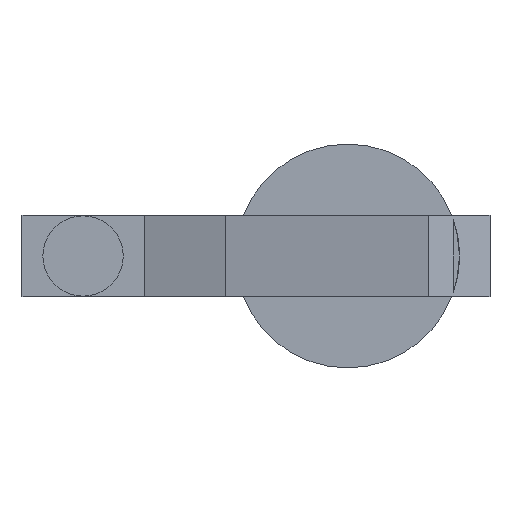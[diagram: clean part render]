
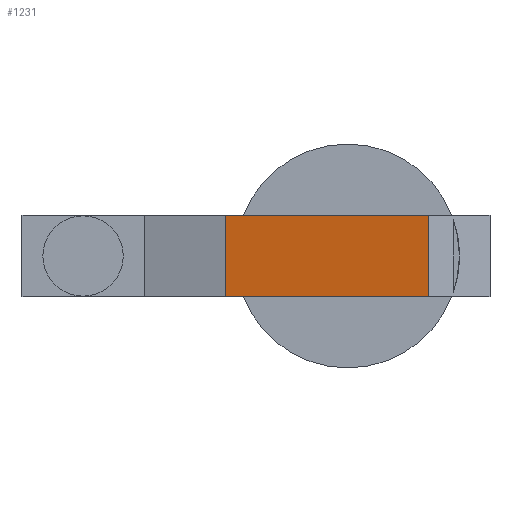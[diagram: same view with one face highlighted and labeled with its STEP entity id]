
A CAD part, front view. The second image highlights one B-rep face of the part: STEP entity #1231.
In plain terms, the highlighted planar face has unit normal (0.874, -0.486, 0) as drawn and (0.874, 0, 0.486) by its records, which use the part's own axes.
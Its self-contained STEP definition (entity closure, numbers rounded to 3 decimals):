
#66 = PLANE('',#67);
#67 = AXIS2_PLACEMENT_3D('',#68,#69,#70);
#68 = CARTESIAN_POINT('',(84.,0.,4.));
#69 = DIRECTION('',(-0.555,0.,-0.832));
#70 = DIRECTION('',(0.832,0.,-0.555));
#163 = VERTEX_POINT('',#164);
#164 = CARTESIAN_POINT('',(84.,4.,4.));
#180 = PLANE('',#181);
#181 = AXIS2_PLACEMENT_3D('',#182,#183,#184);
#182 = CARTESIAN_POINT('',(65.174,4.,26.373));
#183 = DIRECTION('',(0.,1.,-0.));
#184 = DIRECTION('',(-1.,0.,0.));
#221 = VERTEX_POINT('',#222);
#222 = CARTESIAN_POINT('',(84.,-4.,4.));
#236 = PLANE('',#237);
#237 = AXIS2_PLACEMENT_3D('',#238,#239,#240);
#238 = CARTESIAN_POINT('',(65.174,-4.,26.373));
#239 = DIRECTION('',(0.,1.,-0.));
#240 = DIRECTION('',(-1.,0.,0.));
#248 = EDGE_CURVE('',#221,#163,#249,.T.);
#249 = SURFACE_CURVE('',#250,(#254,#261),.PCURVE_S1.);
#250 = LINE('',#251,#252);
#251 = CARTESIAN_POINT('',(84.,-4.,4.));
#252 = VECTOR('',#253,1.);
#253 = DIRECTION('',(0.,1.,0.));
#254 = PCURVE('',#66,#255);
#255 = DEFINITIONAL_REPRESENTATION('',(#256),#260);
#256 = LINE('',#257,#258);
#257 = CARTESIAN_POINT('',(0.,4.));
#258 = VECTOR('',#259,1.);
#259 = DIRECTION('',(0.,-1.));
#260 = ( GEOMETRIC_REPRESENTATION_CONTEXT(2) 
PARAMETRIC_REPRESENTATION_CONTEXT() REPRESENTATION_CONTEXT('2D SPACE',''
  ) );
#261 = PCURVE('',#262,#267);
#262 = PLANE('',#263);
#263 = AXIS2_PLACEMENT_3D('',#264,#265,#266);
#264 = CARTESIAN_POINT('',(64.,0.,40.));
#265 = DIRECTION('',(-0.874,0.,-0.486));
#266 = DIRECTION('',(0.486,0.,-0.874));
#267 = DEFINITIONAL_REPRESENTATION('',(#268),#272);
#268 = LINE('',#269,#270);
#269 = CARTESIAN_POINT('',(41.183,4.));
#270 = VECTOR('',#271,1.);
#271 = DIRECTION('',(0.,-1.));
#272 = ( GEOMETRIC_REPRESENTATION_CONTEXT(2) 
PARAMETRIC_REPRESENTATION_CONTEXT() REPRESENTATION_CONTEXT('2D SPACE',''
  ) );
#369 = VERTEX_POINT('',#370);
#370 = CARTESIAN_POINT('',(64.,-4.,40.));
#384 = PLANE('',#385);
#385 = AXIS2_PLACEMENT_3D('',#386,#387,#388);
#386 = CARTESIAN_POINT('',(56.,0.,59.7));
#387 = DIRECTION('',(-0.927,0.,-0.376));
#388 = DIRECTION('',(0.376,0.,-0.927));
#396 = EDGE_CURVE('',#369,#221,#397,.T.);
#397 = SURFACE_CURVE('',#398,(#402,#409),.PCURVE_S1.);
#398 = LINE('',#399,#400);
#399 = CARTESIAN_POINT('',(64.,-4.,40.));
#400 = VECTOR('',#401,1.);
#401 = DIRECTION('',(0.486,0.,-0.874));
#402 = PCURVE('',#236,#403);
#403 = DEFINITIONAL_REPRESENTATION('',(#404),#408);
#404 = LINE('',#405,#406);
#405 = CARTESIAN_POINT('',(1.174,13.627));
#406 = VECTOR('',#407,1.);
#407 = DIRECTION('',(-0.486,-0.874));
#408 = ( GEOMETRIC_REPRESENTATION_CONTEXT(2) 
PARAMETRIC_REPRESENTATION_CONTEXT() REPRESENTATION_CONTEXT('2D SPACE',''
  ) );
#409 = PCURVE('',#262,#410);
#410 = DEFINITIONAL_REPRESENTATION('',(#411),#415);
#411 = LINE('',#412,#413);
#412 = CARTESIAN_POINT('',(0.,4.));
#413 = VECTOR('',#414,1.);
#414 = DIRECTION('',(1.,0.));
#415 = ( GEOMETRIC_REPRESENTATION_CONTEXT(2) 
PARAMETRIC_REPRESENTATION_CONTEXT() REPRESENTATION_CONTEXT('2D SPACE',''
  ) );
#809 = VERTEX_POINT('',#810);
#810 = CARTESIAN_POINT('',(64.,4.,40.));
#831 = EDGE_CURVE('',#369,#809,#832,.T.);
#832 = SURFACE_CURVE('',#833,(#837,#844),.PCURVE_S1.);
#833 = LINE('',#834,#835);
#834 = CARTESIAN_POINT('',(64.,-4.,40.));
#835 = VECTOR('',#836,1.);
#836 = DIRECTION('',(0.,1.,0.));
#837 = PCURVE('',#384,#838);
#838 = DEFINITIONAL_REPRESENTATION('',(#839),#843);
#839 = LINE('',#840,#841);
#840 = CARTESIAN_POINT('',(21.262,4.));
#841 = VECTOR('',#842,1.);
#842 = DIRECTION('',(0.,-1.));
#843 = ( GEOMETRIC_REPRESENTATION_CONTEXT(2) 
PARAMETRIC_REPRESENTATION_CONTEXT() REPRESENTATION_CONTEXT('2D SPACE',''
  ) );
#844 = PCURVE('',#262,#845);
#845 = DEFINITIONAL_REPRESENTATION('',(#846),#850);
#846 = LINE('',#847,#848);
#847 = CARTESIAN_POINT('',(0.,4.));
#848 = VECTOR('',#849,1.);
#849 = DIRECTION('',(0.,-1.));
#850 = ( GEOMETRIC_REPRESENTATION_CONTEXT(2) 
PARAMETRIC_REPRESENTATION_CONTEXT() REPRESENTATION_CONTEXT('2D SPACE',''
  ) );
#1231 = ADVANCED_FACE('',(#1232),#262,.F.);
#1232 = FACE_BOUND('',#1233,.F.);
#1233 = EDGE_LOOP('',(#1234,#1255,#1256,#1257));
#1234 = ORIENTED_EDGE('',*,*,#1235,.T.);
#1235 = EDGE_CURVE('',#809,#163,#1236,.T.);
#1236 = SURFACE_CURVE('',#1237,(#1241,#1248),.PCURVE_S1.);
#1237 = LINE('',#1238,#1239);
#1238 = CARTESIAN_POINT('',(64.,4.,40.));
#1239 = VECTOR('',#1240,1.);
#1240 = DIRECTION('',(0.486,0.,-0.874));
#1241 = PCURVE('',#262,#1242);
#1242 = DEFINITIONAL_REPRESENTATION('',(#1243),#1247);
#1243 = LINE('',#1244,#1245);
#1244 = CARTESIAN_POINT('',(0.,-4.));
#1245 = VECTOR('',#1246,1.);
#1246 = DIRECTION('',(1.,0.));
#1247 = ( GEOMETRIC_REPRESENTATION_CONTEXT(2) 
PARAMETRIC_REPRESENTATION_CONTEXT() REPRESENTATION_CONTEXT('2D SPACE',''
  ) );
#1248 = PCURVE('',#180,#1249);
#1249 = DEFINITIONAL_REPRESENTATION('',(#1250),#1254);
#1250 = LINE('',#1251,#1252);
#1251 = CARTESIAN_POINT('',(1.174,13.627));
#1252 = VECTOR('',#1253,1.);
#1253 = DIRECTION('',(-0.486,-0.874));
#1254 = ( GEOMETRIC_REPRESENTATION_CONTEXT(2) 
PARAMETRIC_REPRESENTATION_CONTEXT() REPRESENTATION_CONTEXT('2D SPACE',''
  ) );
#1255 = ORIENTED_EDGE('',*,*,#248,.F.);
#1256 = ORIENTED_EDGE('',*,*,#396,.F.);
#1257 = ORIENTED_EDGE('',*,*,#831,.T.);
